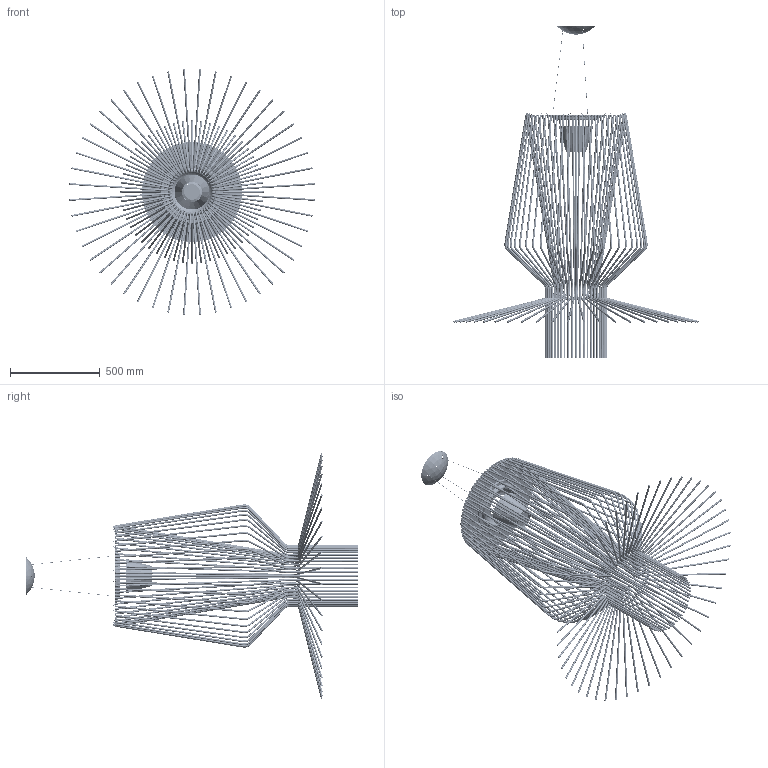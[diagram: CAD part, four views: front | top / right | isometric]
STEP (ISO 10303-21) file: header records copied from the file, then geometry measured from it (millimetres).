
FILE_DESCRIPTION (( 'STEP AP214' ), '1' );
FILE_NAME ('169_ASSAI_S_LD_3D.STEP', '2021-05-06T14:43:43', ( '' ), ( '' ), 'SwSTEP 2.0', 'SolidWorks 2021', '' );
FILE_SCHEMA (( 'AUTOMOTIVE_DESIGN' ));
Length unit declared in the file: millimetre
Products named in the file (1): 169_ASSAI_S_LD_3D
Bounding box: 1364.56 x 1846.55 x 1364.56 mm (x, y, z)
Volume: 12415184.5 mm3; surface area: 5559854.2 mm2
Topology: 204 solids, 204 shells, 7923 faces, 20524 edges, 13046 vertices
Faces by surface type: cylinder 3454, torus 2610, plane 1137, bspline 480, cone 238, sphere 4
Entity records: 360235 total; most frequent: CARTESIAN_POINT 68137, DIRECTION 48292, ORIENTED_EDGE 41048, AXIS2_PLACEMENT_3D 21336, EDGE_CURVE 20524, CIRCLE 13892, VERTEX_POINT 13046, EDGE_LOOP 8256
